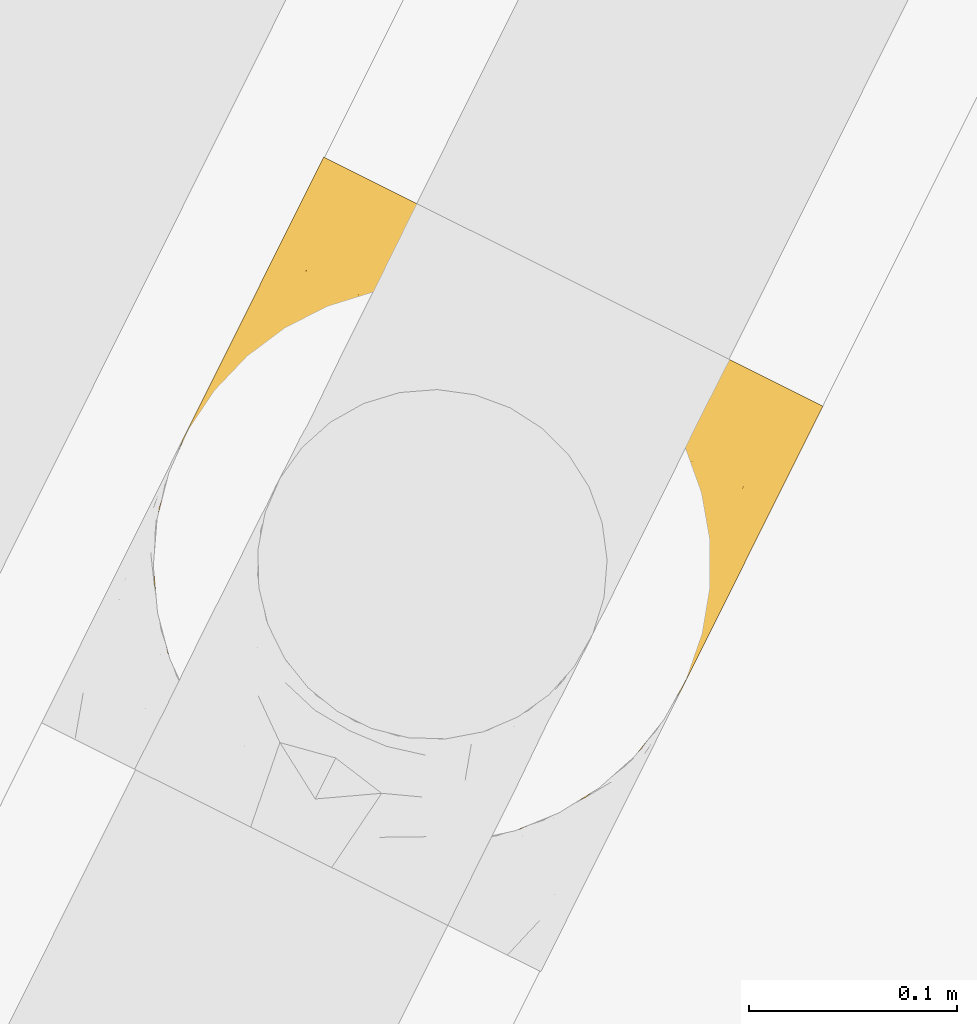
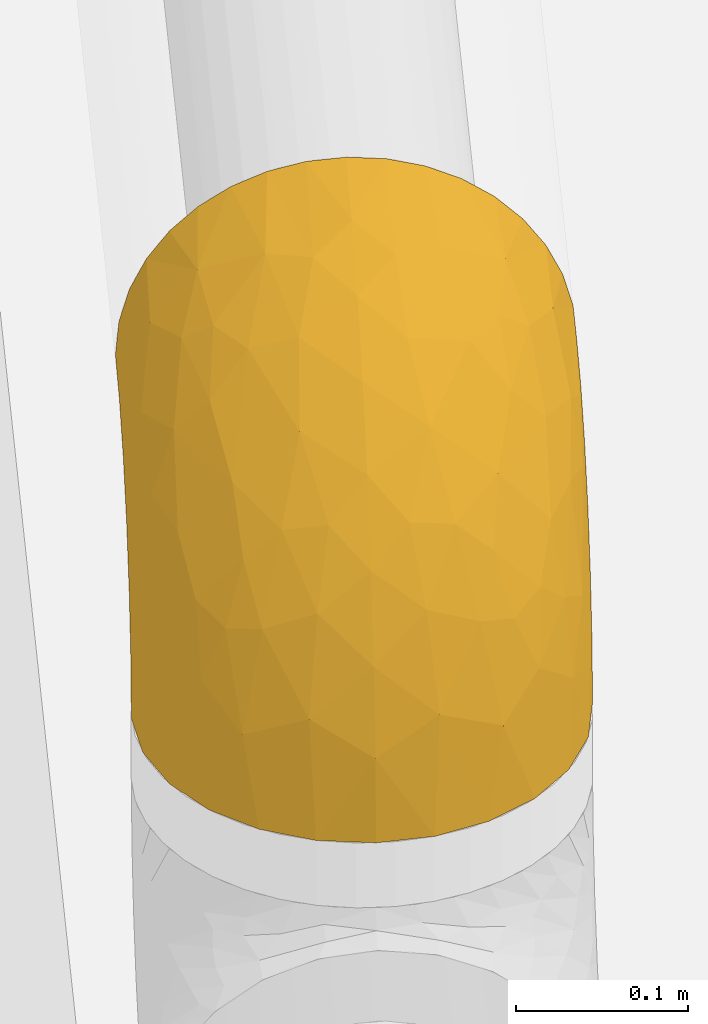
# One storey, part 51 of 91: 1 covering.
"""IFC2X3 building model written with IfcOpenShell, lengths in metres."""

from ifc_helpers import new_model, entity, si_unit, converted_unit, derived_unit, direction, frame, origin, place, context, subcontext, project, spatial, faceted_brep, element, save


model = new_model("IFC2X3")

# Units and contexts
model_context = context("Model", 3, precision=1e-05, world=origin(), true_north=direction((0.894925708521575, 0.446215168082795)))
context_of_model = context(None, 3, precision=1e-05, world=origin(), true_north=direction((0.894925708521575, 0.446215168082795)))
body_context = subcontext(model_context, "Body", "Model", "MODEL_VIEW")
ifc_project = project(units=[si_unit("LENGTHUNIT", "METRE"), si_unit("AREAUNIT", "SQUARE_METRE"), si_unit("VOLUMEUNIT", "CUBIC_METRE"), converted_unit("PLANEANGLEUNIT", "DEGREE", entity("IfcRatioMeasure", 0.0174532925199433), si_unit("PLANEANGLEUNIT", "RADIAN"), dimensions=[0, 0, 0, 0, 0, 0, 0]), si_unit("MASSUNIT", "GRAM", prefix="KILO"), si_unit("TIMEUNIT", "SECOND"), si_unit("FREQUENCYUNIT", "HERTZ"), si_unit("THERMODYNAMICTEMPERATUREUNIT", "DEGREE_CELSIUS"), derived_unit("THERMALTRANSMITTANCEUNIT", [(si_unit("MASSUNIT", "GRAM", prefix="KILO"), 1), (si_unit("THERMODYNAMICTEMPERATUREUNIT", "KELVIN"), -1), (si_unit("TIMEUNIT", "SECOND"), -3)]), derived_unit("VOLUMETRICFLOWRATEUNIT", [(si_unit("LENGTHUNIT", "METRE"), 3), (si_unit("TIMEUNIT", "SECOND"), -1)]), si_unit("ELECTRICCURRENTUNIT", "AMPERE"), si_unit("ELECTRICVOLTAGEUNIT", "VOLT"), si_unit("POWERUNIT", "WATT"), si_unit("FORCEUNIT", "NEWTON", prefix="KILO"), si_unit("ILLUMINANCEUNIT", "LUX"), si_unit("LUMINOUSFLUXUNIT", "LUMEN"), si_unit("LUMINOUSINTENSITYUNIT", "CANDELA"), si_unit("PRESSUREUNIT", "PASCAL")], contexts=[model_context, context_of_model])

# Site, building, storey
site_placement = place(None, frame((218.228324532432, 584.720189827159, 0.0), z_axis=(0.0, 0.0, 1.0), x_axis=(0.446215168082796, 0.894925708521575, 0.0)))
site = spatial("IfcSite", under=ifc_project, at=site_placement, Name="Default", CompositionType="ELEMENT")
building_placement = place(site_placement, origin())
building = spatial("IfcBuilding", under=site, at=building_placement, CompositionType="ELEMENT")
storey_placement = place(building_placement, origin())
storey = spatial("IfcBuildingStorey", under=building, at=storey_placement, Name="0 - Piano Terra", CompositionType="ELEMENT", Elevation=0.0)

# Covering
covering_placement = place(storey_placement, frame((-11.3148192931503, -4.52096176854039, 3.74640472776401)))
element("IfcCovering", 1, at=covering_placement, inside=storey, Name="Isolamento tubazione:Default", ObjectType="Isolamento tubazione:Default", PredefinedType="INSULATION", context=body_context, shape_type="Brep", body=[
    faceted_brep([(0.287745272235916, 0.261805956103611, 0.199474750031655), (0.287745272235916, 0.251922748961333, 0.220669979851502), (0.287745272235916, 0.238508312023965, 0.239827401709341), (0.287745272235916, 0.221970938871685, 0.256363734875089), (0.287745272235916, 0.202814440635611, 0.269775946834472), (0.287745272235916, 0.181622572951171, 0.27965674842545), (0.287745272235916, 0.159039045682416, 0.285707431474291), (0.287745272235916, 0.135745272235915, 0.287745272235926), (0.287745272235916, 0.112453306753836, 0.285707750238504), (0.287745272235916, 0.0898657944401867, 0.279655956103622), (0.287745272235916, 0.0686705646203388, 0.269772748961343), (0.287745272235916, 0.0495131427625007, 0.256358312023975), (0.287745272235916, 0.0329768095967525, 0.239820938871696), (0.287745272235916, 0.0195645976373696, 0.220664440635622), (0.287745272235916, 0.00968379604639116, 0.199472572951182), (0.287745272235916, 0.00363311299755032, 0.176889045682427), (0.287745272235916, 0.00159527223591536, 0.153595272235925), (0.287745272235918, 0.00288094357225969, 0.138898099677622), (0.287745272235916, 0.00363279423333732, 0.130303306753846), (0.287745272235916, 0.00968458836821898, 0.107715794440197), (0.287745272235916, 0.0195677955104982, 0.0865205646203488), (0.287745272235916, 0.0329822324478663, 0.0673631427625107), (0.287745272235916, 0.0495196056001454, 0.0508268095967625), (0.287745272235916, 0.0686761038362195, 0.0374145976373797), (0.287745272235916, 0.0898679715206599, 0.0275337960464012), (0.287745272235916, 0.112451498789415, 0.0214831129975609), (0.287745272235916, 0.135745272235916, 0.0194452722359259), (0.287745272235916, 0.159037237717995, 0.0214827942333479), (0.287745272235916, 0.181624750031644, 0.0275345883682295), (0.287745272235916, 0.202819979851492, 0.0374177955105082), (0.287745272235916, 0.22197740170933, 0.0508322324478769), (0.287745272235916, 0.238513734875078, 0.0673696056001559), (0.287745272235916, 0.251925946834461, 0.0865261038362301), (0.287745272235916, 0.26180674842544, 0.10771797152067), (0.287745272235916, 0.26785743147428, 0.130301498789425), (0.28774527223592, 0.26860949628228, 0.138898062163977), (0.287745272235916, 0.269895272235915, 0.153595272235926), (0.287745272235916, 0.267857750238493, 0.176887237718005), (0.269895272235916, 0.135745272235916, 0.0015952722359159), (0.265324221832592, 0.101024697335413, 0.0015952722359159), (0.251922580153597, 0.0686702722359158, 0.0015952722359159), (0.23060364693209, 0.0408868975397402, 0.0015952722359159), (0.216711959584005, 0.0302274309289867, 0.0015952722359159), (0.202820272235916, 0.0195679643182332, 0.0015952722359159), (0.186643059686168, 0.012867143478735, 0.0015952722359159), (0.170465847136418, 0.00616632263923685, 0.0015952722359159), (0.150667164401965, 0.00355977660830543, 0.0015952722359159), (0.135745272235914, 0.00159527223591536, 0.00159527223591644), (0.101024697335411, 0.00616632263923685, 0.00159527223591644), (0.0686702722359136, 0.0195679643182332, 0.00159527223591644), (0.0408868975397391, 0.0408868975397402, 0.00159527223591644), (0.0195679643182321, 0.0686702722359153, 0.00159527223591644), (0.00616632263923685, 0.101024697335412, 0.00159527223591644), (0.00159527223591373, 0.135745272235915, 0.00159527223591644), (0.00616632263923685, 0.170465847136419, 0.00159527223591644), (0.0195679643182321, 0.202820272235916, 0.00159527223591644), (0.0408868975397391, 0.230603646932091, 0.00159527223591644), (0.0686702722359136, 0.251922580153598, 0.00159527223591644), (0.101024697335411, 0.265324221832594, 0.00159527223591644), (0.135745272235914, 0.269895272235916, 0.00159527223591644), (0.150667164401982, 0.267930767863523, 0.0015952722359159), (0.170465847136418, 0.265324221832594, 0.0015952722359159), (0.186643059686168, 0.258623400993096, 0.0015952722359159), (0.202820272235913, 0.251922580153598, 0.0015952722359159), (0.216711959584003, 0.241263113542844, 0.0015952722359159), (0.23060364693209, 0.230603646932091, 0.0015952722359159), (0.251922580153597, 0.202820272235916, 0.0015952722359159), (0.265324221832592, 0.170465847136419, 0.0015952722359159), (0.0180257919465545, 0.173592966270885, 0.0793389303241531), (0.00709356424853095, 0.135745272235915, 0.0574203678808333), (0.0233771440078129, 0.135745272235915, 0.11110013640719), (0.231920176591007, 0.135745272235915, 0.282246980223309), (0.207241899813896, 0.159717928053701, 0.273936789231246), (0.178240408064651, 0.135745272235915, 0.265963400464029), (0.158630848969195, 0.170985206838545, 0.251669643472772), (0.164011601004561, 0.200241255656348, 0.241156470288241), (0.11028428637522, 0.173639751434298, 0.219063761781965), (0.0406698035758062, 0.167491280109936, 0.138231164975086), (0.0469889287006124, 0.199265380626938, 0.124159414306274), (0.0824390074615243, 0.255399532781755, 0.0570178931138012), (0.104510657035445, 0.212938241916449, 0.188464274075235), (0.150639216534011, 0.223457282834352, 0.214821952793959), (0.155822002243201, 0.243942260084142, 0.191593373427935), (0.0581703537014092, 0.234087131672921, 0.0819819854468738), (0.0498202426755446, 0.135745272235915, 0.16057169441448), (0.19301425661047, 0.260833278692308, 0.178269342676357), (0.14518994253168, 0.257743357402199, 0.152774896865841), (0.0854066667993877, 0.135745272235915, 0.203933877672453), (0.128768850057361, 0.135745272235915, 0.239520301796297), (0.114887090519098, 0.262693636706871, 0.0926265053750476), (0.114577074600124, 0.267352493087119, 0.0427674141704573), (0.0318283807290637, 0.211715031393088, 0.0603098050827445), (0.200254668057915, 0.236857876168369, 0.225253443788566), (0.0941366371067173, 0.251339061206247, 0.106232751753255), (0.140924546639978, 0.269895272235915, 0.0409357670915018), (0.139264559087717, 0.269895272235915, 0.0283269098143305), (0.137604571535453, 0.269895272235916, 0.0157180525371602), (0.156109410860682, 0.269895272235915, 0.0775952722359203), (0.14851697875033, 0.269895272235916, 0.059265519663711), (0.235124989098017, 0.252999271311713, 0.212298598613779), (0.073111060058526, 0.186228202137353, 0.175571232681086), (0.067903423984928, 0.159251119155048, 0.181506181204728), (0.17495543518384, 0.266914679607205, 0.142030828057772), (0.235921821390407, 0.225420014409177, 0.247977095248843), (0.180265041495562, 0.269895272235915, 0.109075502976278), (0.168187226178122, 0.269895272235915, 0.0933353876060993), (0.220056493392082, 0.186827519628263, 0.269211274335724), (0.0728637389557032, 0.208621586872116, 0.156043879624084), (0.0798632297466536, 0.235964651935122, 0.123868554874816), (0.111228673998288, 0.244360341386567, 0.150188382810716), (0.216594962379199, 0.267685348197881, 0.16284515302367), (0.273622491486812, 0.269895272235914, 0.151735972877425), (0.261013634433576, 0.269895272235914, 0.150075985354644), (0.248404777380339, 0.269895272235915, 0.148415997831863), (0.21174527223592, 0.269895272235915, 0.133231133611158), (0.196005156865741, 0.269895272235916, 0.121153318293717), (0.188135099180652, 0.269895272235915, 0.115114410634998), (0.190837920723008, 0.218921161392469, 0.239896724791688), (0.0587716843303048, 0.219832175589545, 0.117252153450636), (0.230075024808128, 0.269895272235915, 0.14082356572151), (0.243401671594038, 0.257440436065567, 0.0862333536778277), (0.231201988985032, 0.26633905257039, 0.108928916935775), (0.254512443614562, 0.261505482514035, 0.101516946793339), (0.172784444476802, 0.265515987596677, 0.0282177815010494), (0.170566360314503, 0.267416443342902, 0.048802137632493), (0.192583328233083, 0.258379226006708, 0.0233658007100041), (0.262635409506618, 0.234200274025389, 0.0570559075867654), (0.270963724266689, 0.2096322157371, 0.0379394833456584), (0.211432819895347, 0.247613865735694, 0.0175473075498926), (0.224176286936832, 0.238549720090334, 0.0186508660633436), (0.203626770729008, 0.262888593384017, 0.0712470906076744), (0.276419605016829, 0.16297331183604, 0.0188530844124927), (0.238613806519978, 0.22427845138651, 0.0160462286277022), (0.241020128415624, 0.228157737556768, 0.030145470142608), (0.254920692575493, 0.203773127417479, 0.0172767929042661), (0.206743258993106, 0.265964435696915, 0.0898107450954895), (0.267614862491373, 0.172729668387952, 0.0128211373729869), (0.268485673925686, 0.190556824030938, 0.0240178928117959), (0.248077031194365, 0.229549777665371, 0.041263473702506), (0.226858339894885, 0.248264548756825, 0.0518606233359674), (0.275123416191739, 0.135745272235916, 0.0142171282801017), (0.257085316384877, 0.228925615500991, 0.0478490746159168), (0.231774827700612, 0.254010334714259, 0.0703790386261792), (0.180278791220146, 0.267242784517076, 0.0663251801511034), (0.194639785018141, 0.259428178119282, 0.038221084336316), (0.262576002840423, 0.265732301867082, 0.117739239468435), (0.250936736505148, 0.266097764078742, 0.11613299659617), (0.233920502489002, 0.268138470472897, 0.120325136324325), (0.268344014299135, 0.244552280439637, 0.0725214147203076), (0.261333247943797, 0.211919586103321, 0.0337025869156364), (0.219203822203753, 0.266477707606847, 0.10241564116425), (0.203223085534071, 0.257840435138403, 0.0479963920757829), (0.163330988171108, 0.267289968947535, 0.0194576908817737), (0.224507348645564, 0.242459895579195, 0.033229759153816), (0.224176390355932, 0.0329408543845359, 0.0186511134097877), (0.238613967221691, 0.0472120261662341, 0.0160469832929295), (0.224506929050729, 0.0290300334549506, 0.033230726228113), (0.262634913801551, 0.0372947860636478, 0.0570503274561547), (0.269609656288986, 0.106124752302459, 0.0124987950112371), (0.268340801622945, 0.0269410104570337, 0.0725165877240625), (0.233920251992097, 0.00335319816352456, 0.120317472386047), (0.21174527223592, 0.00159527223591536, 0.133231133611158), (0.231195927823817, 0.00515136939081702, 0.108926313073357), (0.254920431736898, 0.067715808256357, 0.0172784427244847), (0.231782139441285, 0.0174874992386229, 0.0703674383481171), (0.24339600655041, 0.014050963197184, 0.0862283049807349), (0.276899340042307, 0.105531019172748, 0.0199234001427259), (0.268487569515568, 0.0809360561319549, 0.024018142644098), (0.139264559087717, 0.00159527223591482, 0.0283269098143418), (0.137604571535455, 0.00159527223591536, 0.0157180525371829), (0.203627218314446, 0.00860216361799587, 0.0712466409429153), (0.226861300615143, 0.0232262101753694, 0.0518636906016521), (0.17056636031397, 0.00407410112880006, 0.0488021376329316), (0.156109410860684, 0.00159527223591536, 0.0775952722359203), (0.14851697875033, 0.00159527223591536, 0.059265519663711), (0.248404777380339, 0.00159527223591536, 0.148415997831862), (0.230075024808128, 0.00159527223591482, 0.14082356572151), (0.262576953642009, 0.00575946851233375, 0.117734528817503), (0.192583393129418, 0.0131113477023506, 0.0233657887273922), (0.211432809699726, 0.0238766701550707, 0.0175473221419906), (0.172784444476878, 0.00597455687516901, 0.0282177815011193), (0.257090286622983, 0.0425746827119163, 0.0478410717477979), (0.270967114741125, 0.061865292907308, 0.0379359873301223), (0.261335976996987, 0.0595746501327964, 0.0337015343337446), (0.273622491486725, 0.00159527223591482, 0.151735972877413), (0.261013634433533, 0.00159527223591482, 0.150075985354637), (0.254510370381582, 0.00998674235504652, 0.101511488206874), (0.248080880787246, 0.0419468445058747, 0.0412589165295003), (0.219199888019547, 0.00501312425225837, 0.102411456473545), (0.206747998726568, 0.00552776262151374, 0.089806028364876), (0.180265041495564, 0.00159527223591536, 0.109075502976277), (0.250936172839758, 0.00539385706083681, 0.116128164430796), (0.180278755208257, 0.00424774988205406, 0.0663252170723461), (0.196005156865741, 0.00159527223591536, 0.121153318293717), (0.203222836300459, 0.0136499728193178, 0.0479965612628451), (0.19463981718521, 0.0120623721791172, 0.0382211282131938), (0.188135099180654, 0.00159527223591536, 0.115114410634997), (0.168187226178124, 0.00159527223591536, 0.0933353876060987), (0.241019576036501, 0.0433316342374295, 0.0301467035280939), (0.163330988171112, 0.00420057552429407, 0.0194576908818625), (0.140924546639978, 0.00159527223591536, 0.0409357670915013), (0.0318283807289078, 0.0597755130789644, 0.0603098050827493), (0.235125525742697, 0.018489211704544, 0.212294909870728), (0.193014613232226, 0.0106570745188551, 0.178268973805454), (0.155819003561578, 0.0275474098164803, 0.191589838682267), (0.2002519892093, 0.0346285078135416, 0.225247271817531), (0.114887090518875, 0.00879690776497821, 0.0926265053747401), (0.114577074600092, 0.00413805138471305, 0.0427674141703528), (0.174955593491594, 0.00457581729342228, 0.142030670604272), (0.104498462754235, 0.0585543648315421, 0.188454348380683), (0.16400446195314, 0.0712444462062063, 0.241149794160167), (0.110284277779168, 0.0978508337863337, 0.219063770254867), (0.190835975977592, 0.052565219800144, 0.239892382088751), (0.220051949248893, 0.0846596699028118, 0.269208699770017), (0.0824390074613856, 0.0160910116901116, 0.0570178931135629), (0.0798632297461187, 0.035525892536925, 0.123868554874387), (0.058771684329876, 0.0516583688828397, 0.117252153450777), (0.0581703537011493, 0.037403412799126, 0.0819819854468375), (0.0180257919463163, 0.0978975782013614, 0.0793389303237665), (0.0941366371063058, 0.0201514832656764, 0.106232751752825), (0.0406698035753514, 0.103999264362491, 0.138231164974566), (0.0469889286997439, 0.0722251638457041, 0.124159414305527), (0.150634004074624, 0.0480360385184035, 0.214821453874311), (0.21659477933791, 0.00380513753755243, 0.162844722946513), (0.0731110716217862, 0.0852623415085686, 0.175571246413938), (0.111228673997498, 0.0271302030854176, 0.150188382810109), (0.145190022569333, 0.0137471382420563, 0.152774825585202), (0.235921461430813, 0.0460646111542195, 0.247971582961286), (0.0679034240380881, 0.112239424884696, 0.181506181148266), (0.207242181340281, 0.11177089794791, 0.27393654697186), (0.15429472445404, 0.10794286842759, 0.251423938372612), (0.0728586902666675, 0.0628686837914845, 0.156036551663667)], [[[0, 1, 2, 3, 4, 5, 6, 7, 8, 9, 10, 11, 12, 13, 14, 15, 16, 17, 18, 19, 20, 21, 22, 23, 24, 25, 26, 27, 28, 29, 30, 31, 32, 33, 34, 35, 36, 37]], [[38, 39, 40, 41, 42, 43, 44, 45, 46, 47, 48, 49, 50, 51, 52, 53, 54, 55, 56, 57, 58, 59, 60, 61, 62, 63, 64, 65, 66, 67]], [[68, 69, 70]], [[69, 54, 53]], [[71, 72, 73]], [[74, 75, 76]], [[68, 77, 78]], [[79, 58, 57]], [[68, 55, 54]], [[80, 81, 82]], [[83, 57, 56]], [[84, 77, 70]], [[85, 86, 82]], [[76, 87, 88]], [[89, 90, 79]], [[91, 83, 56]], [[92, 82, 81]], [[89, 93, 86]], [[90, 94, 95, 96, 59]], [[90, 97, 98, 94]], [[99, 1, 0]], [[59, 58, 90]], [[100, 101, 76]], [[102, 86, 85]], [[89, 102, 97]], [[100, 78, 77]], [[103, 99, 92]], [[102, 104, 105, 97]], [[55, 91, 56]], [[74, 73, 72]], [[72, 6, 5]], [[4, 106, 5]], [[80, 107, 100]], [[106, 72, 5]], [[82, 99, 85]], [[3, 103, 4]], [[108, 109, 93]], [[71, 7, 6]], [[76, 75, 80]], [[103, 3, 2]], [[54, 69, 68]], [[110, 36, 111, 112, 113]], [[2, 1, 103]], [[110, 114, 102]], [[102, 114, 115, 116, 104]], [[36, 110, 37]], [[4, 103, 106]], [[99, 37, 85]], [[79, 93, 89]], [[102, 85, 110]], [[117, 103, 92]], [[117, 106, 103]], [[1, 99, 103]], [[107, 108, 118]], [[37, 99, 0]], [[73, 74, 88]], [[89, 86, 102]], [[68, 78, 91]], [[82, 86, 109]], [[80, 82, 109]], [[82, 92, 99]], [[68, 91, 55]], [[118, 91, 78]], [[6, 72, 71]], [[74, 106, 75]], [[80, 75, 81]], [[117, 81, 75]], [[57, 83, 79]], [[83, 108, 93]], [[37, 110, 85]], [[110, 113, 119, 114]], [[81, 117, 92]], [[106, 117, 75]], [[70, 77, 68]], [[84, 87, 101]], [[77, 84, 101]], [[80, 100, 76]], [[76, 101, 87]], [[77, 101, 100]], [[83, 93, 79]], [[86, 93, 109]], [[118, 108, 83]], [[80, 109, 108]], [[91, 118, 83]], [[107, 118, 78]], [[100, 107, 78]], [[108, 107, 80]], [[79, 90, 58]], [[90, 89, 97]], [[88, 74, 76]], [[106, 74, 72]], [[120, 121, 122]], [[60, 59, 96, 95, 61]], [[123, 124, 125]], [[126, 29, 127]], [[127, 29, 28]], [[123, 98, 124]], [[128, 129, 65]], [[104, 130, 105]], [[131, 27, 26]], [[62, 123, 63]], [[132, 133, 134]], [[104, 116, 135]], [[38, 67, 136]], [[137, 136, 134]], [[138, 133, 139]], [[140, 38, 136]], [[131, 136, 137]], [[126, 141, 142]], [[127, 28, 137]], [[124, 143, 144]], [[145, 33, 32]], [[65, 129, 132]], [[146, 122, 147]], [[148, 122, 31]], [[149, 127, 137]], [[33, 113, 112]], [[35, 34, 112, 111, 36]], [[134, 67, 66]], [[120, 126, 142]], [[33, 145, 113]], [[140, 131, 26]], [[141, 126, 127]], [[126, 120, 148]], [[30, 148, 31]], [[33, 112, 34]], [[28, 27, 131]], [[126, 30, 29]], [[121, 147, 122]], [[31, 122, 32]], [[128, 125, 144]], [[115, 121, 150]], [[121, 115, 114]], [[97, 105, 143]], [[130, 104, 135]], [[139, 142, 138]], [[143, 151, 144]], [[123, 94, 98]], [[62, 61, 152]], [[123, 62, 152]], [[98, 97, 124]], [[143, 124, 97]], [[125, 124, 144]], [[126, 148, 30]], [[122, 148, 120]], [[66, 65, 132]], [[149, 134, 138]], [[125, 128, 64]], [[123, 125, 63]], [[64, 128, 65]], [[64, 63, 125]], [[144, 151, 129]], [[144, 129, 128]], [[129, 153, 132]], [[133, 132, 153]], [[134, 66, 132]], [[153, 151, 139]], [[138, 134, 133]], [[153, 139, 133]], [[142, 139, 130]], [[146, 32, 122]], [[113, 145, 119]], [[94, 152, 95]], [[28, 131, 137]], [[136, 131, 140]], [[134, 136, 67]], [[134, 149, 137]], [[141, 149, 138]], [[149, 141, 127]], [[142, 141, 138]], [[121, 120, 150]], [[147, 121, 114]], [[120, 142, 150]], [[150, 116, 115]], [[135, 150, 142]], [[150, 135, 116]], [[130, 135, 142]], [[114, 119, 147]], [[146, 119, 145]], [[119, 146, 147]], [[32, 146, 145]], [[105, 130, 143]], [[130, 139, 151]], [[130, 151, 143]], [[129, 151, 153]], [[95, 152, 61]], [[123, 152, 94]], [[154, 155, 156]], [[22, 157, 23]], [[38, 140, 158]], [[22, 159, 157]], [[160, 161, 162]], [[39, 158, 163]], [[164, 157, 165]], [[166, 24, 167]], [[168, 169, 47, 46, 45]], [[164, 170, 171]], [[172, 173, 174]], [[175, 176, 177]], [[178, 42, 179]], [[41, 155, 154]], [[39, 163, 40]], [[43, 180, 44]], [[181, 182, 157]], [[182, 183, 167]], [[166, 167, 158]], [[19, 177, 20]], [[17, 16, 184, 185, 18]], [[182, 167, 24]], [[23, 182, 24]], [[186, 21, 20]], [[181, 164, 187]], [[188, 165, 162]], [[22, 21, 159]], [[170, 189, 190]], [[159, 186, 165]], [[191, 20, 177]], [[173, 172, 192]], [[167, 163, 158]], [[23, 157, 182]], [[185, 175, 19]], [[18, 185, 19]], [[162, 165, 186]], [[193, 188, 162]], [[166, 26, 25]], [[194, 170, 192]], [[154, 195, 179]], [[190, 189, 196]], [[172, 174, 180]], [[170, 190, 197]], [[192, 197, 173]], [[156, 198, 171]], [[199, 45, 44]], [[172, 178, 195]], [[180, 200, 199]], [[200, 180, 174]], [[178, 180, 43]], [[192, 172, 195]], [[186, 159, 21]], [[157, 159, 165]], [[183, 163, 167]], [[155, 198, 156]], [[180, 178, 172]], [[42, 41, 179]], [[178, 43, 42]], [[154, 179, 41]], [[178, 179, 195]], [[155, 41, 40]], [[154, 156, 194]], [[40, 163, 155]], [[198, 155, 163]], [[163, 187, 198]], [[171, 198, 187]], [[164, 171, 187]], [[171, 170, 194]], [[175, 177, 19]], [[176, 160, 191]], [[199, 168, 45]], [[38, 158, 39]], [[140, 26, 166]], [[140, 166, 158]], [[24, 166, 25]], [[164, 181, 157]], [[183, 181, 187]], [[181, 183, 182]], [[163, 183, 187]], [[160, 162, 186]], [[193, 162, 161]], [[188, 193, 196]], [[164, 165, 188]], [[189, 170, 164]], [[196, 189, 188]], [[188, 189, 164]], [[191, 160, 186]], [[176, 161, 160]], [[20, 191, 186]], [[176, 191, 177]], [[194, 192, 195]], [[170, 197, 192]], [[154, 194, 195]], [[194, 156, 171]], [[180, 199, 44]], [[168, 199, 200]], [[201, 51, 50]], [[15, 202, 203]], [[204, 202, 205]], [[173, 206, 207]], [[207, 200, 174, 173]], [[47, 207, 48]], [[208, 190, 196, 193, 161]], [[209, 210, 211]], [[13, 202, 14]], [[208, 173, 197, 190]], [[212, 213, 210]], [[48, 207, 214]], [[69, 53, 52]], [[203, 202, 204]], [[215, 216, 217]], [[201, 218, 51]], [[202, 15, 14]], [[70, 69, 218]], [[217, 214, 219]], [[220, 218, 221]], [[201, 50, 217]], [[49, 217, 50]], [[220, 70, 218]], [[222, 209, 204]], [[223, 161, 176, 175]], [[224, 209, 211]], [[204, 225, 226]], [[206, 208, 226]], [[16, 15, 223]], [[15, 203, 223]], [[13, 12, 227]], [[214, 49, 48]], [[202, 227, 205]], [[69, 52, 218]], [[51, 218, 52]], [[202, 13, 227]], [[217, 219, 215]], [[228, 87, 84]], [[73, 229, 71]], [[88, 211, 230]], [[211, 88, 87]], [[11, 227, 12]], [[9, 213, 10]], [[10, 213, 227]], [[229, 8, 71]], [[173, 208, 206]], [[7, 71, 8]], [[213, 229, 230]], [[226, 208, 203]], [[212, 205, 227]], [[228, 220, 224]], [[213, 230, 210]], [[225, 204, 209]], [[208, 223, 203]], [[10, 227, 11]], [[9, 8, 229]], [[226, 225, 219]], [[203, 204, 226]], [[204, 205, 222]], [[216, 201, 217]], [[218, 201, 221]], [[88, 230, 73]], [[229, 213, 9]], [[212, 222, 205]], [[210, 209, 222]], [[219, 214, 206]], [[217, 49, 214]], [[161, 223, 208]], [[223, 175, 185, 184, 16]], [[213, 212, 227]], [[222, 212, 210]], [[224, 220, 221]], [[70, 220, 84]], [[224, 221, 231]], [[228, 211, 87]], [[220, 228, 84]], [[211, 228, 224]], [[226, 219, 206]], [[219, 225, 215]], [[225, 209, 215]], [[216, 231, 221]], [[231, 215, 209]], [[201, 216, 221]], [[215, 231, 216]], [[224, 231, 209]], [[207, 47, 169, 168, 200]], [[214, 207, 206]], [[210, 230, 211]], [[73, 230, 229]]]),
])

save(model, "model.ifc")
